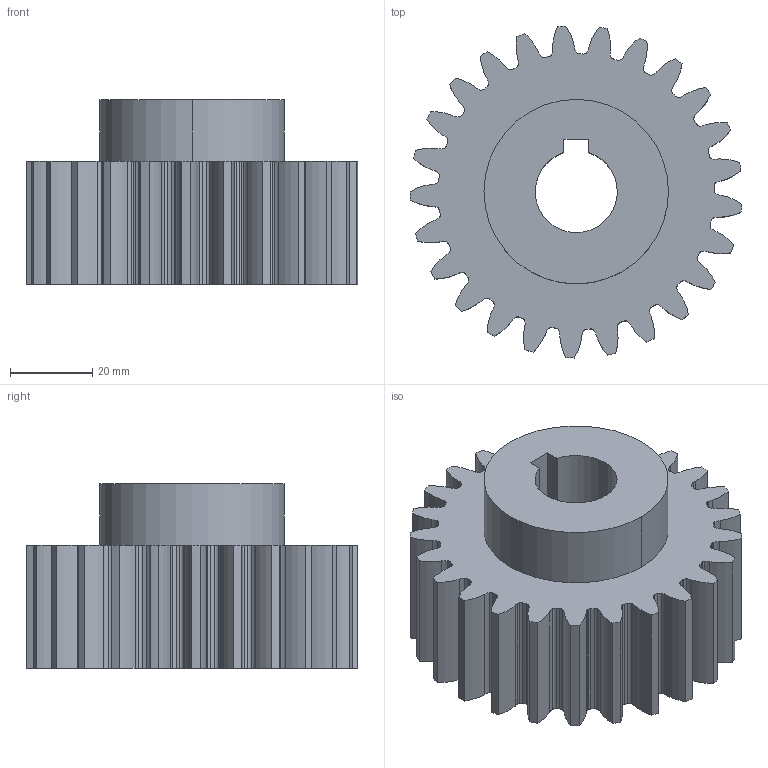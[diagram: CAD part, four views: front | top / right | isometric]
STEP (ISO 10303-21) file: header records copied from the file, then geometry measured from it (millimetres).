
FILE_DESCRIPTION (( 'STEP AP203' ), '1' );
FILE_NAME ('zcl-3_0-25-a20-k.STEP', '2021-10-26T06:42:56', ( '' ), ( '' ), 'SwSTEP 2.0', 'SolidWorks 2020', '' );
FILE_SCHEMA (( 'CONFIG_CONTROL_DESIGN' ));
Length unit declared in the file: millimetre
Products named in the file (1): zcl-3_0-25-a20-k
Bounding box: 80.89 x 80.92 x 45 mm (x, y, z)
Volume: 138930.8 mm3; surface area: 27287.6 mm2
Topology: 1 solids, 1 shells, 225 faces, 666 edges, 444 vertices
Faces by surface type: cylinder 194, plane 31
Entity records: 7829 total; most frequent: DIRECTION 1506, CARTESIAN_POINT 1336, ORIENTED_EDGE 1332, EDGE_CURVE 666, AXIS2_PLACEMENT_3D 614, VERTEX_POINT 444, CIRCLE 388, VECTOR 278
